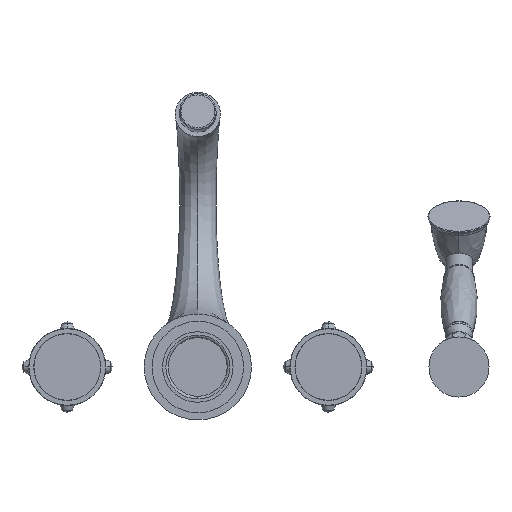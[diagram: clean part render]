
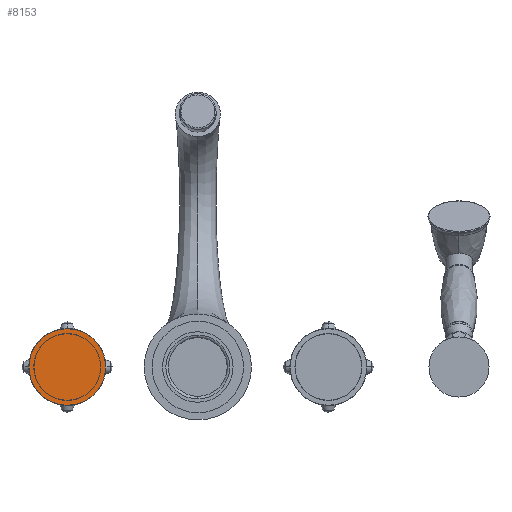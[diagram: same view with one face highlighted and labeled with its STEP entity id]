
A CAD part, front view. The second image highlights one B-rep face of the part: STEP entity #8153.
In plain terms, the highlighted planar face has unit normal (0, -1, 0).
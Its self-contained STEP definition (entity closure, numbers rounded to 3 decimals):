
#7260=CARTESIAN_POINT('',(-100.,0.,0.));
#7261=DIRECTION('',(0.,-1.,0.));
#7262=DIRECTION('',(1.,0.,0.));
#7263=AXIS2_PLACEMENT_3D('',#7260,#7261,#7262);
#7265=CARTESIAN_POINT('',(-100.,0.,0.));
#7266=DIRECTION('',(0.,-1.,0.));
#7267=DIRECTION('',(-1.,0.,0.));
#7268=AXIS2_PLACEMENT_3D('',#7265,#7266,#7267);
#7370=CARTESIAN_POINT('',(-70.704,0.,
0.));
#7371=CARTESIAN_POINT('',(-129.296,0.,
0.));
#7372=VERTEX_POINT('',#7370);
#7373=VERTEX_POINT('',#7371);
#8143=CARTESIAN_POINT('',(-100.,0.,0.));
#8144=DIRECTION('',(0.,1.,0.));
#8145=DIRECTION('',(1.,0.,0.));
#8146=AXIS2_PLACEMENT_3D('',#8143,#8144,#8145);
#8147=PLANE('',#8146);
#8149=ORIENTED_EDGE('',*,*,#8148,.F.);
#8150=ORIENTED_EDGE('',*,*,#8133,.F.);
#8151=EDGE_LOOP('',(#8149,#8150));
#8152=FACE_OUTER_BOUND('',#8151,.F.);
#8153=ADVANCED_FACE('',(#8152),#8147,.F.);
#7264=CIRCLE('',#7263,29.296);
#7269=CIRCLE('',#7268,29.296);
#8133=EDGE_CURVE('',#7373,#7372,#7269,.T.);
#8148=EDGE_CURVE('',#7372,#7373,#7264,.T.);
